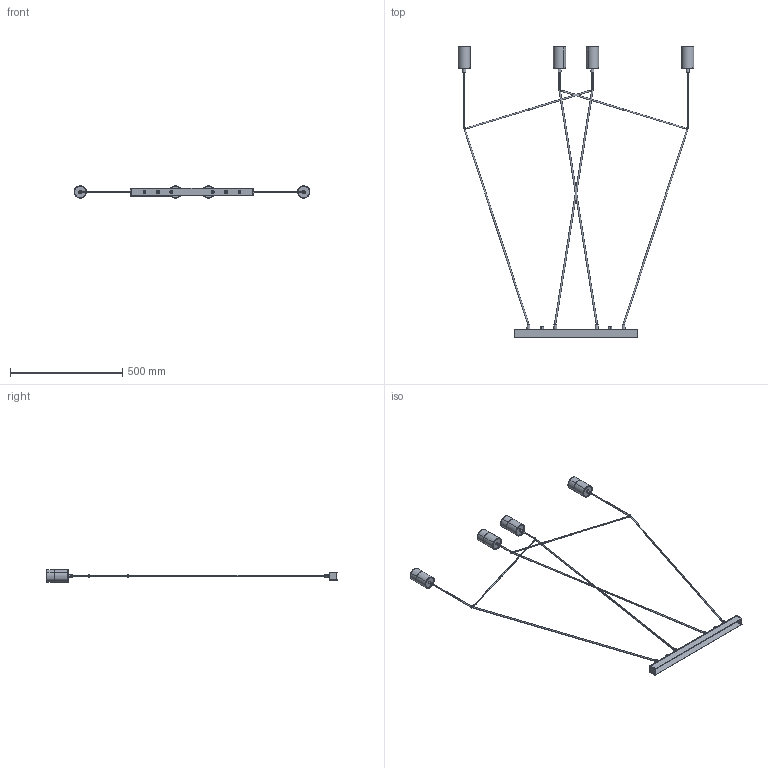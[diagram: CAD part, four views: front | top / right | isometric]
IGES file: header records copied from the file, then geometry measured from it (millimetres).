
Start section: SolidWorks IGES file using analytic representation for surfaces
Global section: file name: Z:\Modele 3D_WWW\_KOLEKCJE_WWW\IMBRIA-IV-9191-9192\IMBRIA-IV-9191-9192.IGS; native system: SolidWorks 2020; preprocessor: SolidWorks 2020; author: gabriela.tworek; date: 210428.115001; units: millimetre
Bounding box: 1052.16 x 1295.64 x 54.97 mm (x, y, z)
Surface area: 419973 mm2 (no closed solid volume)
Topology: 0 solids, 0 shells, 592 faces, 10356 edges, 10356 vertices
Faces by surface type: bspline 300, revolution 292
